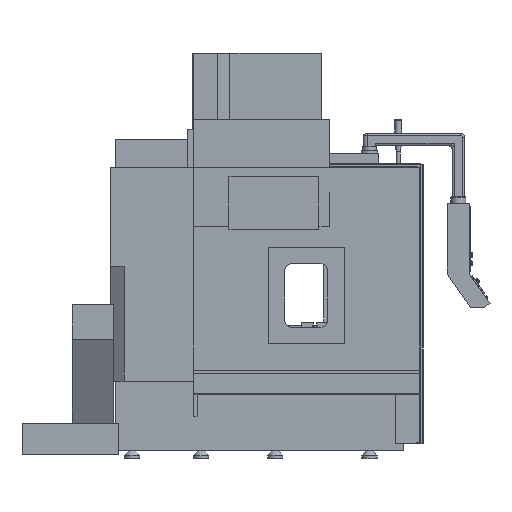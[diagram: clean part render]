
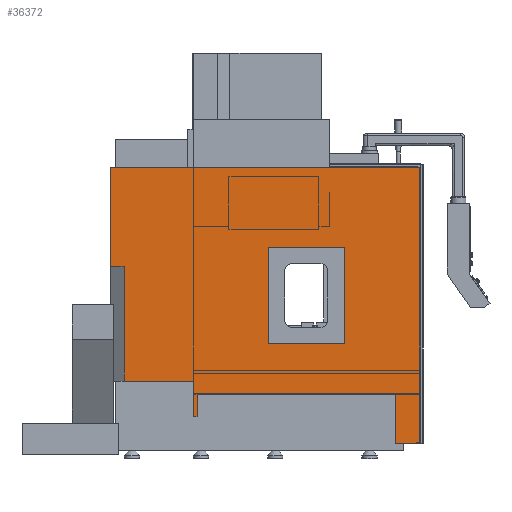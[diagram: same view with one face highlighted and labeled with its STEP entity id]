
A CAD part, left-side view. The second image highlights one B-rep face of the part: STEP entity #36372.
In plain terms, the highlighted planar face has unit normal (-1, 0, 0).
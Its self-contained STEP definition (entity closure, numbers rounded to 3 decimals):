
#8030=FACE_BOUND('',#48324,.T.);
#8031=FACE_BOUND('',#48325,.T.);
#36372=ADVANCED_FACE('',(#8030,#8031),#40018,.T.);
#40018=PLANE('',#112058);
#48324=EDGE_LOOP('',(#65764,#65765,#65766,#65767));
#48325=EDGE_LOOP('',(#65768,#65769,#65770,#65771,#65772,#65773,#65774,#65775,
#65776,#65777,#65778,#65779));
#65764=ORIENTED_EDGE('',*,*,#87132,.F.);
#65765=ORIENTED_EDGE('',*,*,#87133,.F.);
#65766=ORIENTED_EDGE('',*,*,#87134,.F.);
#65767=ORIENTED_EDGE('',*,*,#87135,.F.);
#65768=ORIENTED_EDGE('',*,*,#87136,.T.);
#65769=ORIENTED_EDGE('',*,*,#87137,.T.);
#65770=ORIENTED_EDGE('',*,*,#86962,.T.);
#65771=ORIENTED_EDGE('',*,*,#87131,.T.);
#65772=ORIENTED_EDGE('',*,*,#87138,.T.);
#65773=ORIENTED_EDGE('',*,*,#87139,.T.);
#65774=ORIENTED_EDGE('',*,*,#87140,.T.);
#65775=ORIENTED_EDGE('',*,*,#87105,.T.);
#65776=ORIENTED_EDGE('',*,*,#87141,.T.);
#65777=ORIENTED_EDGE('',*,*,#87142,.T.);
#65778=ORIENTED_EDGE('',*,*,#87143,.T.);
#65779=ORIENTED_EDGE('',*,*,#87144,.T.);
#76983=VERTEX_POINT('',#153631);
#76984=VERTEX_POINT('',#153633);
#77081=VERTEX_POINT('',#153917);
#77082=VERTEX_POINT('',#153919);
#77101=VERTEX_POINT('',#153967);
#77102=VERTEX_POINT('',#153971);
#77103=VERTEX_POINT('',#153972);
#77104=VERTEX_POINT('',#153974);
#77105=VERTEX_POINT('',#153976);
#77106=VERTEX_POINT('',#153979);
#77107=VERTEX_POINT('',#153980);
#77108=VERTEX_POINT('',#153983);
#77109=VERTEX_POINT('',#153985);
#77110=VERTEX_POINT('',#153988);
#77111=VERTEX_POINT('',#153990);
#77112=VERTEX_POINT('',#153992);
#86962=EDGE_CURVE('',#76984,#76983,#96718,.T.);
#87105=EDGE_CURVE('',#77082,#77081,#96857,.T.);
#87131=EDGE_CURVE('',#76983,#77101,#96883,.T.);
#87132=EDGE_CURVE('',#77102,#77103,#96884,.T.);
#87133=EDGE_CURVE('',#77104,#77102,#96885,.T.);
#87134=EDGE_CURVE('',#77105,#77104,#96886,.T.);
#87135=EDGE_CURVE('',#77103,#77105,#96887,.T.);
#87136=EDGE_CURVE('',#77106,#77107,#96888,.T.);
#87137=EDGE_CURVE('',#77107,#76984,#96889,.T.);
#87138=EDGE_CURVE('',#77101,#77108,#96890,.T.);
#87139=EDGE_CURVE('',#77108,#77109,#96891,.T.);
#87140=EDGE_CURVE('',#77109,#77082,#96892,.T.);
#87141=EDGE_CURVE('',#77081,#77110,#96893,.T.);
#87142=EDGE_CURVE('',#77110,#77111,#96894,.T.);
#87143=EDGE_CURVE('',#77111,#77112,#96895,.T.);
#87144=EDGE_CURVE('',#77112,#77106,#96896,.T.);
#96718=LINE('',#153632,#105549);
#96857=LINE('',#153918,#105688);
#96883=LINE('',#153968,#105714);
#96884=LINE('',#153970,#105715);
#96885=LINE('',#153973,#105716);
#96886=LINE('',#153975,#105717);
#96887=LINE('',#153977,#105718);
#96888=LINE('',#153978,#105719);
#96889=LINE('',#153981,#105720);
#96890=LINE('',#153982,#105721);
#96891=LINE('',#153984,#105722);
#96892=LINE('',#153986,#105723);
#96893=LINE('',#153987,#105724);
#96894=LINE('',#153989,#105725);
#96895=LINE('',#153991,#105726);
#96896=LINE('',#153993,#105727);
#105549=VECTOR('',#129021,1.);
#105688=VECTOR('',#129242,1.);
#105714=VECTOR('',#129276,1.);
#105715=VECTOR('',#129279,1.);
#105716=VECTOR('',#129280,1.);
#105717=VECTOR('',#129281,1.);
#105718=VECTOR('',#129282,1.);
#105719=VECTOR('',#129283,1.);
#105720=VECTOR('',#129284,1.);
#105721=VECTOR('',#129285,1.);
#105722=VECTOR('',#129286,1.);
#105723=VECTOR('',#129287,1.);
#105724=VECTOR('',#129288,1.);
#105725=VECTOR('',#129289,1.);
#105726=VECTOR('',#129290,1.);
#105727=VECTOR('',#129291,1.);
#112058=AXIS2_PLACEMENT_3D('',#153994,#129292,#129293);
#129021=DIRECTION('',(0.,1.,0.));
#129242=DIRECTION('',(0.,0.,-1.));
#129276=DIRECTION('',(0.,0.,-1.));
#129279=DIRECTION('',(0.,0.,1.));
#129280=DIRECTION('',(0.,-1.,0.));
#129281=DIRECTION('',(0.,0.,-1.));
#129282=DIRECTION('',(0.,1.,0.));
#129283=DIRECTION('',(0.,-1.,0.));
#129284=DIRECTION('',(0.,0.,1.));
#129285=DIRECTION('',(0.,-1.,0.));
#129286=DIRECTION('',(0.,0.,-1.));
#129287=DIRECTION('',(0.,-1.,0.));
#129288=DIRECTION('',(0.,-1.,0.));
#129289=DIRECTION('',(0.,0.,1.));
#129290=DIRECTION('',(0.,-1.,0.));
#129291=DIRECTION('',(0.,0.,-1.));
#129292=DIRECTION('',(-1.,0.,0.));
#129293=DIRECTION('',(0.,-1.,0.));
#153631=CARTESIAN_POINT('',(-1400.005,1356.998,375.004));
#153632=CARTESIAN_POINT('',(-1400.005,-888.002,375.004));
#153633=CARTESIAN_POINT('',(-1400.005,-888.002,375.004));
#153917=CARTESIAN_POINT('',(-1400.005,756.998,-1434.996));
#153918=CARTESIAN_POINT('',(-1400.005,756.998,-1624.996));
#153919=CARTESIAN_POINT('',(-1400.005,756.998,-1174.996));
#153967=CARTESIAN_POINT('',(-1400.005,1356.998,-343.611));
#153968=CARTESIAN_POINT('',(-1400.005,1356.998,-1624.996));
#153970=CARTESIAN_POINT('',(-1400.005,-338.502,-905.496));
#153971=CARTESIAN_POINT('',(-1400.005,-338.502,-905.496));
#153972=CARTESIAN_POINT('',(-1400.005,-338.502,-204.496));
#153973=CARTESIAN_POINT('',(-1400.005,212.498,-905.496));
#153974=CARTESIAN_POINT('',(-1400.005,212.498,-905.496));
#153975=CARTESIAN_POINT('',(-1400.005,212.498,-204.496));
#153976=CARTESIAN_POINT('',(-1400.005,212.498,-204.496));
#153977=CARTESIAN_POINT('',(-1400.005,-338.502,-204.496));
#153978=CARTESIAN_POINT('',(-1400.005,-888.002,-1624.996));
#153979=CARTESIAN_POINT('',(-1400.005,-710.002,-1624.996));
#153980=CARTESIAN_POINT('',(-1400.005,-888.002,-1624.996));
#153981=CARTESIAN_POINT('',(-1400.005,-888.002,-1624.996));
#153982=CARTESIAN_POINT('',(-1400.005,-888.002,-343.611));
#153983=CARTESIAN_POINT('',(-1400.005,1256.998,-343.611));
#153984=CARTESIAN_POINT('',(-1400.005,1256.998,-1624.996));
#153985=CARTESIAN_POINT('',(-1400.005,1256.998,-1174.996));
#153986=CARTESIAN_POINT('',(-1400.005,-888.002,-1174.996));
#153987=CARTESIAN_POINT('',(-1400.005,-888.002,-1434.996));
#153988=CARTESIAN_POINT('',(-1400.005,728.998,-1434.996));
#153989=CARTESIAN_POINT('',(-1400.005,728.998,-1624.996));
#153990=CARTESIAN_POINT('',(-1400.005,728.998,-1269.996));
#153991=CARTESIAN_POINT('',(-1400.005,-888.002,-1269.996));
#153992=CARTESIAN_POINT('',(-1400.005,-710.002,-1269.996));
#153993=CARTESIAN_POINT('',(-1400.005,-710.002,-1624.996));
#153994=CARTESIAN_POINT('',(-1400.005,-888.002,-1624.996));
